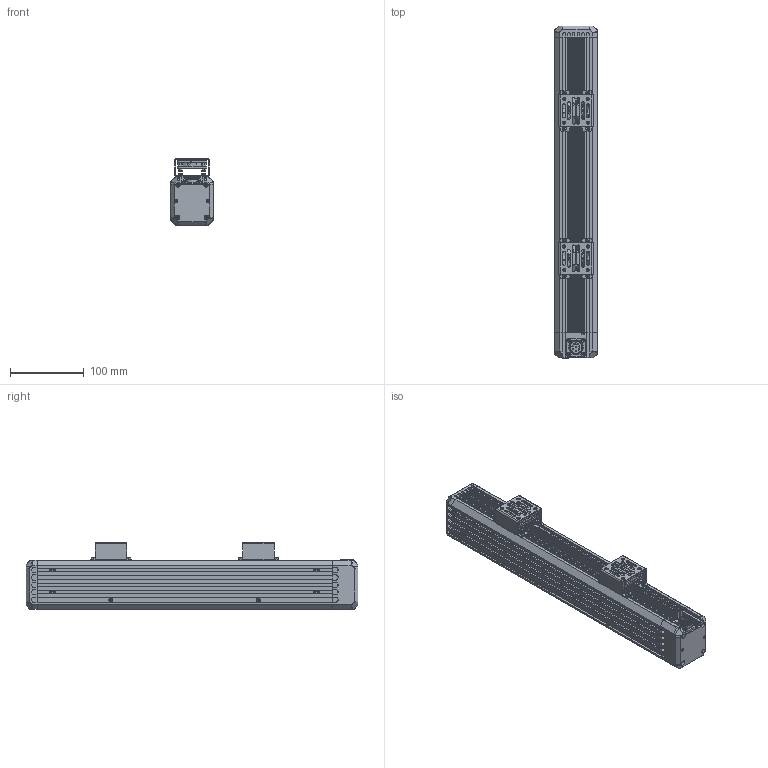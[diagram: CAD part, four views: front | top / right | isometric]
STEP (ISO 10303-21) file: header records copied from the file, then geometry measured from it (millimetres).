
FILE_DESCRIPTION((''),'2;1');
FILE_NAME('MV-LTDS-H-400-W_ASM_1_ASM','2025-06-03T15:09:31',('huguozhe'),(''),'CREO PARAMETRIC BY PTC INC, 2020044','CREO PARAMETRIC BY PTC INC, 2020044','');
FILE_SCHEMA(('AUTOMOTIVE_DESIGN { 1 0 10303 214 1 1 1 1 }'));
Products named in the file (27): DE-15-000622_1; DE-15-000621_ASM_1_ASM; DE-15-000624_1; DE-15-000623_ASM_1_ASM; SC-HSCM3X6B-GB70_1_1; DE-14-015561_1; DE-14-016112_ASM_1_ASM; DE-14-015560_1_1_1; DE-14-016113_ASM_1_1_ASM_1_ASM; DE-14-016113_ASM_ASM_1_ASM; 19M-H_2_1_1_1; 19M-8H-8P_1_1; 19M-8H_ASM_1_ASM_1_ASM; 19M-8H_ASM_ASM_1_ASM; DE-14-016113-19M-8H_ASM; DE-12-001657_1; SC-AM3X10NL-BNI-SCM435-GB70_1_1; SC-HSCM3X8-SUS316_1; DE-11-019911_1; 8002-CLS-M3-1_1; DE-11-019911_ASM_1_ASM; 101800527_01_1; 101800527_02_1; 101800527_MGA4012HB-O10_ASM_1_ASM; SC-ASFM3X14NL-BNI-SUS316L_1; NUT-M4-GB6170_1; MV-LTDS-H-400-W_ASM_1_ASM
Assembly tree (67 placements, depth 5):
  MV-LTDS-H-400-W_ASM_1_ASM
    DE-15-000621_ASM_1_ASM
      DE-15-000622_1
    DE-15-000623_ASM_1_ASM  x2
      DE-15-000624_1
    SC-HSCM3X6B-GB70_1_1  x4
    DE-14-016112_ASM_1_ASM
      DE-14-015561_1
    DE-14-016113-19M-8H_ASM
      DE-14-016113_ASM_ASM_1_ASM
        DE-14-016113_ASM_1_1_ASM_1_ASM
          DE-14-015560_1_1_1
      19M-8H_ASM_ASM_1_ASM
        19M-8H_ASM_1_ASM_1_ASM
          19M-H_2_1_1_1
          19M-8H-8P_1_1
    DE-12-001657_1
    SC-AM3X10NL-BNI-SCM435-GB70_1_1  x16
    SC-HSCM3X8-SUS316_1  x4
    DE-11-019911_ASM_1_ASM  x2
      DE-11-019911_1
      8002-CLS-M3-1_1
    101800527_MGA4012HB-O10_ASM_1_ASM  x2
      101800527_01_1
      101800527_02_1
    SC-ASFM3X14NL-BNI-SUS316L_1  x8
    NUT-M4-GB6170_1  x8
Bounding box: 58 x 450 x 90.6 mm (x, y, z)
Volume: 1370484 mm3; surface area: 388656.7 mm2
Topology: 62 solids, 166 shells, 3453 faces, 9262 edges, 5975 vertices
Faces by surface type: plane 1587, cylinder 1180, cone 488, torus 156, bspline 26, sphere 16
Entity records: 72346 total; most frequent: CARTESIAN_POINT 18344, DIRECTION 9873, ORIENTED_EDGE 9076, EDGE_CURVE 4632, AXIS2_PLACEMENT_3D 3714, VERTEX_POINT 3093, VECTOR 2445, LINE 2445
